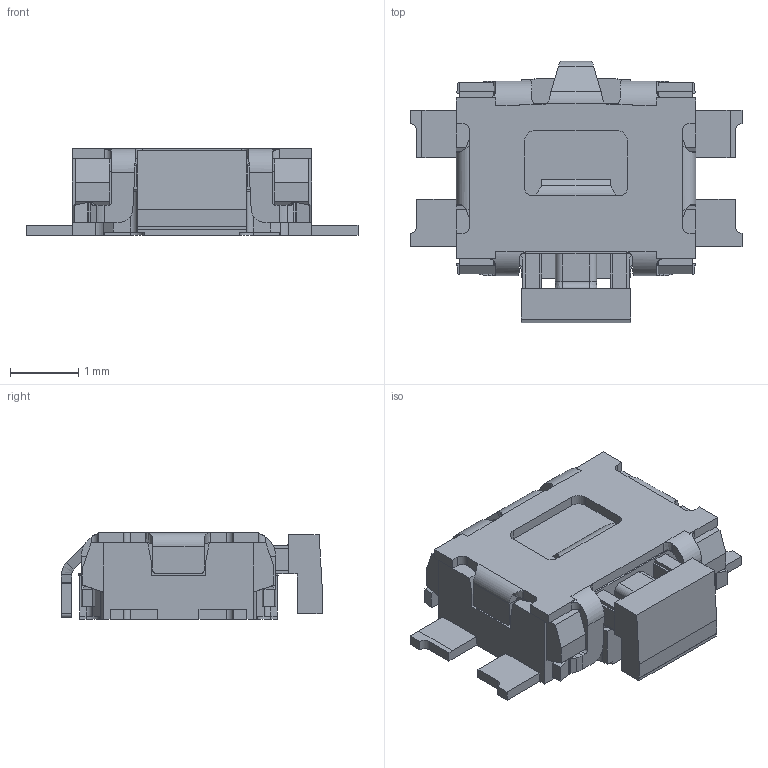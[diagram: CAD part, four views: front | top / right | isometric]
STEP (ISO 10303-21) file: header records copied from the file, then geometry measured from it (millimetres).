
FILE_DESCRIPTION (( 'STEP AP214' ), '1' );
FILE_NAME ('SKSCPC.STEP', '2010-12-01T01:28:46', ( '' ), ( '' ), 'SwSTEP 2.0', 'SolidWorks 2007', '' );
FILE_SCHEMA (( 'AUTOMOTIVE_DESIGN' ));
Length unit declared in the file: millimetre
Products named in the file (1): SKSCPC
Bounding box: 4.85 x 3.81 x 1.27 mm (x, y, z)
Volume: 12.4 mm3; surface area: 59 mm2
Topology: 1 solids, 1 shells, 468 faces, 1308 edges, 832 vertices
Faces by surface type: plane 346, cylinder 104, bspline 18
Entity records: 20447 total; most frequent: CARTESIAN_POINT 3343, ORIENTED_EDGE 2616, DIRECTION 2320, EDGE_CURVE 1308, VECTOR 1034, LINE 1034, VERTEX_POINT 832, AXIS2_PLACEMENT_3D 643
